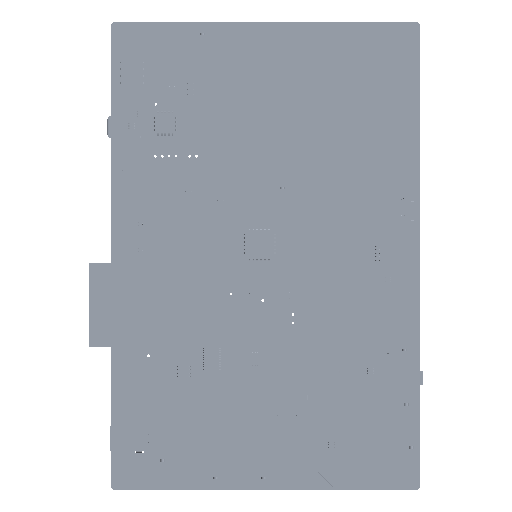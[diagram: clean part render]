
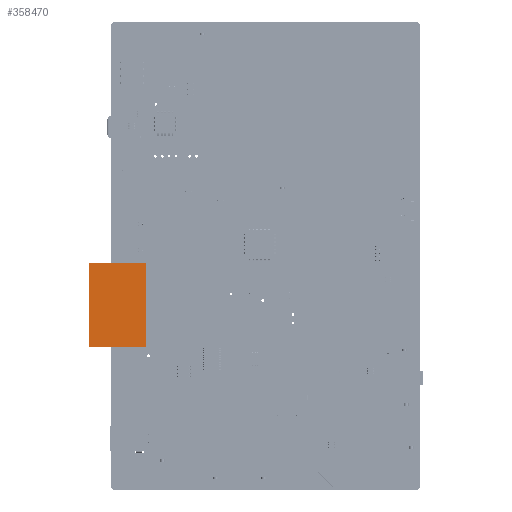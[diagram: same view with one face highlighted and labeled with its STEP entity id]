
A CAD part, top view. The second image highlights one B-rep face of the part: STEP entity #358470.
In plain terms, the highlighted planar face has unit normal (0, 0, 1).
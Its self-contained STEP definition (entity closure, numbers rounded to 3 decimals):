
#358341 = VERTEX_POINT('',#358342);
#358342 = CARTESIAN_POINT('',(-10.455,15.505,13.8));
#358348 = EDGE_CURVE('',#358341,#358349,#358351,.T.);
#358349 = VERTEX_POINT('',#358350);
#358350 = CARTESIAN_POINT('',(10.455,15.505,13.8));
#358351 = LINE('',#358352,#358353);
#358352 = CARTESIAN_POINT('',(-10.455,15.505,13.8));
#358353 = VECTOR('',#358354,1.);
#358354 = DIRECTION('',(1.,0.,0.));
#358379 = EDGE_CURVE('',#358349,#358380,#358382,.T.);
#358380 = VERTEX_POINT('',#358381);
#358381 = CARTESIAN_POINT('',(10.455,-15.505,13.8));
#358382 = LINE('',#358383,#358384);
#358383 = CARTESIAN_POINT('',(10.455,15.505,13.8));
#358384 = VECTOR('',#358385,1.);
#358385 = DIRECTION('',(0.,-1.,0.));
#358410 = EDGE_CURVE('',#358380,#358411,#358413,.T.);
#358411 = VERTEX_POINT('',#358412);
#358412 = CARTESIAN_POINT('',(-10.455,-15.505,13.8));
#358413 = LINE('',#358414,#358415);
#358414 = CARTESIAN_POINT('',(10.455,-15.505,13.8));
#358415 = VECTOR('',#358416,1.);
#358416 = DIRECTION('',(-1.,0.,0.));
#358441 = EDGE_CURVE('',#358411,#358341,#358442,.T.);
#358442 = LINE('',#358443,#358444);
#358443 = CARTESIAN_POINT('',(-10.455,-15.505,13.8));
#358444 = VECTOR('',#358445,1.);
#358445 = DIRECTION('',(0.,1.,0.));
#358470 = ADVANCED_FACE('',(#358471),#358477,.T.);
#358471 = FACE_BOUND('',#358472,.F.);
#358472 = EDGE_LOOP('',(#358473,#358474,#358475,#358476));
#358473 = ORIENTED_EDGE('',*,*,#358348,.T.);
#358474 = ORIENTED_EDGE('',*,*,#358379,.T.);
#358475 = ORIENTED_EDGE('',*,*,#358410,.T.);
#358476 = ORIENTED_EDGE('',*,*,#358441,.T.);
#358477 = PLANE('',#358478);
#358478 = AXIS2_PLACEMENT_3D('',#358479,#358480,#358481);
#358479 = CARTESIAN_POINT('',(-10.455,15.505,13.8));
#358480 = DIRECTION('',(0.,0.,1.));
#358481 = DIRECTION('',(1.,0.,0.));
